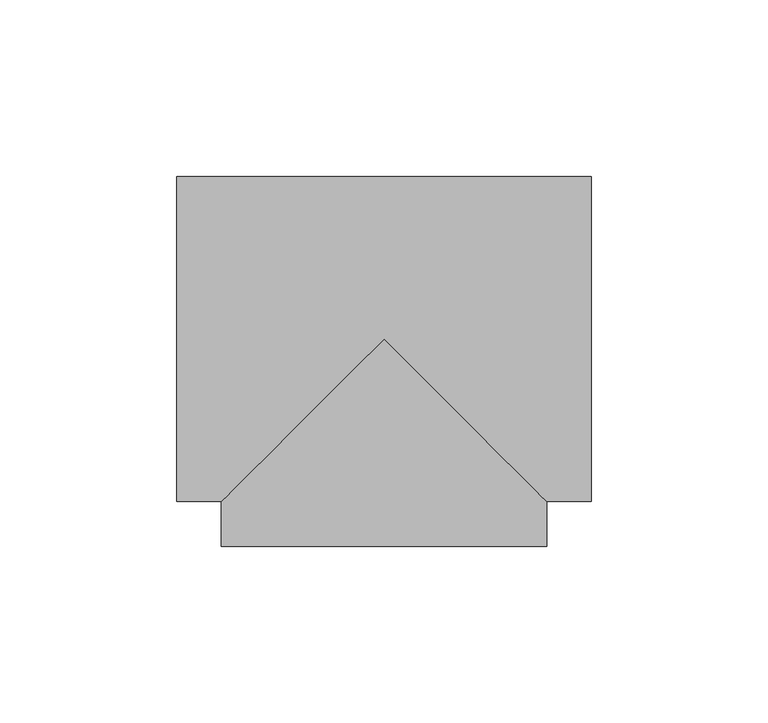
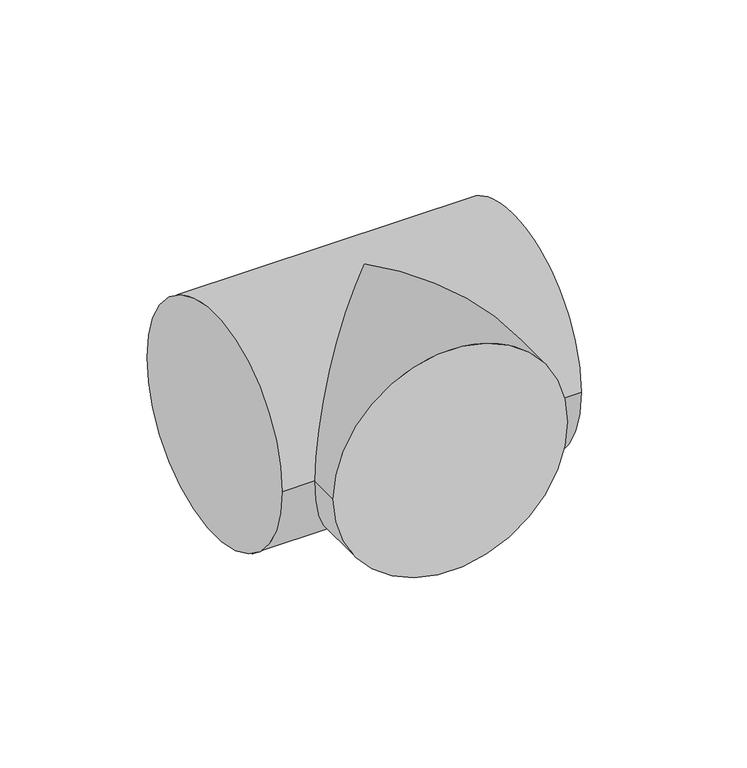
"""IFC4 building model written with IfcOpenShell, lengths in millimetres: pipe fitting geometry, M_Te - Genérica : Estándar."""

from ifc_helpers import new_model, si_unit, frame, origin, place, context, project, spatial, circle_curve, ellipse_curve, source, transform, mapped, element, save
from ifc_brep_helpers import plane_surface, cylinder_surface, advanced_brep


def pipe_fitting_2d09eb79(model_context):
    return source(origin(), model_context, "Body", "AdvancedBrep", [
        advanced_brep(
        [(-58.7375, -46.0375, 0.0), (-58.7375, 46.0375, 0.0), (58.7375, -46.0375, 0.0), (58.7375, 46.0375, 0.0), (-46.0375, -46.0375, 0.0), (0.0, 0.0, 46.0375), (46.0375, -46.0375, 0.0), (0.0, 0.0, -46.0375), (-46.0375, -58.7375, 0.0), (46.0375, -58.7375, 0.0)],
        [
            (0, 1, circle_curve(frame((-58.7375, 0.0, 0.0), z_axis=(-1.0, 0.0, 0.0), x_axis=(0.0, 1.0, 0.0)), 46.0375)),
            (1, 0, circle_curve(frame((-58.7375, 0.0, 0.0), z_axis=(-1.0, 0.0, 0.0), x_axis=(0.0, 1.0, 0.0)), 46.0375)),
            (2, 3, circle_curve(frame((58.7375, 0.0, 0.0), z_axis=(1.0, 0.0, 0.0), x_axis=(0.0, 1.0, 0.0)), 46.0375)),
            (3, 2, circle_curve(frame((58.7375, 0.0, 0.0), z_axis=(1.0, 0.0, 0.0), x_axis=(0.0, 1.0, 0.0)), 46.0375)),
            (0, 4),
            (4, 5, ellipse_curve(frame((0.0, 0.0, 0.0), z_axis=(-0.707106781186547, 0.7071067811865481, 0.0), x_axis=(-0.707106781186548, -0.707106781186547, 0.0)), 65.1068569, 46.0375)),
            (5, 6, ellipse_curve(frame((0.0, 0.0, 0.0), z_axis=(0.707106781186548, 0.7071067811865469, 0.0), x_axis=(-0.707106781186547, 0.707106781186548, 0.0)), 65.1068569, 46.0375)),
            (6, 2),
            (3, 1),
            (6, 7, ellipse_curve(frame((0.0, 0.0, 0.0), z_axis=(0.707106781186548, 0.7071067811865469, 0.0), x_axis=(-0.707106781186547, 0.707106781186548, 0.0)), 65.1068569, 46.0375)),
            (7, 4, ellipse_curve(frame((0.0, 0.0, 0.0), z_axis=(-0.707106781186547, 0.7071067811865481, 0.0), x_axis=(-0.707106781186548, -0.707106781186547, 0.0)), 65.1068569, 46.0375)),
            (8, 9, circle_curve(frame((0.0, -58.7375, 0.0), z_axis=(0.0, -1.0, 0.0), x_axis=(1.0, 0.0, 0.0)), 46.0375)),
            (9, 8, circle_curve(frame((0.0, -58.7375, 0.0), z_axis=(0.0, -1.0, 0.0), x_axis=(1.0, 0.0, 0.0)), 46.0375)),
            (9, 6),
            (4, 8),
        ],
        [
            plane_surface(frame((-58.7375, 0.0, 0.0), z_axis=(-1.0, 0.0, 0.0), x_axis=(0.0, 0.0, 1.0))),
            plane_surface(frame((58.7375, 0.0, 0.0), z_axis=(1.0, 0.0, 0.0), x_axis=(0.0, 0.0, 1.0))),
            cylinder_surface(frame((-58.7375, 0.0, 0.0), z_axis=(-1.0, 0.0, 0.0), x_axis=(0.0, 1.0, 0.0)), 46.0375),
            plane_surface(frame((0.0, -58.7375, 0.0), z_axis=(0.0, -1.0, 0.0), x_axis=(0.0, 0.0, 1.0))),
            cylinder_surface(frame((0.0, 0.0, 0.0), z_axis=(0.0, 1.0, 0.0), x_axis=(1.0, 0.0, 0.0)), 46.0375),
        ],
        [
            (0, [[1, 2]]),
            (1, [[3, 4]]),
            (2, [[-1, 5, 6, 7, 8, -4, 9]]),
            (2, [[-2, -9, -3, -8, 10, 11, -5]]),
            (3, [[12, 13]]),
            (4, [[-13, 14, -7, -6, 15]]),
            (4, [[-12, -15, -11, -10, -14]]),
        ],
    ),
    ])


if __name__ == "__main__":
    model = new_model("IFC4")
    model_context = context("Model", 3, world=origin())
    ifc_project = project(units=[si_unit("LENGTHUNIT", "METRE", prefix="MILLI")], contexts=[model_context])
    site = spatial("IfcSite", under=ifc_project)
    building = spatial("IfcBuilding", under=site)
    placement = place(None, origin())
    pipe_fitting_shape = pipe_fitting_2d09eb79(model_context)
    element("IfcPipeFitting", 1, ObjectType="M_Te - Genérica : Estándar", at=placement, inside=building, context=model_context, shape_type="MappedRepresentation", body=[
        mapped(pipe_fitting_shape, transform((0.0, 0.0, 0.0), x_axis=(1.0, 0.0, 0.0), y_axis=(0.0, 1.0, 0.0), z_axis=(0.0, 0.0, 1.0))),
    ])
    save(model, "model.ifc")
